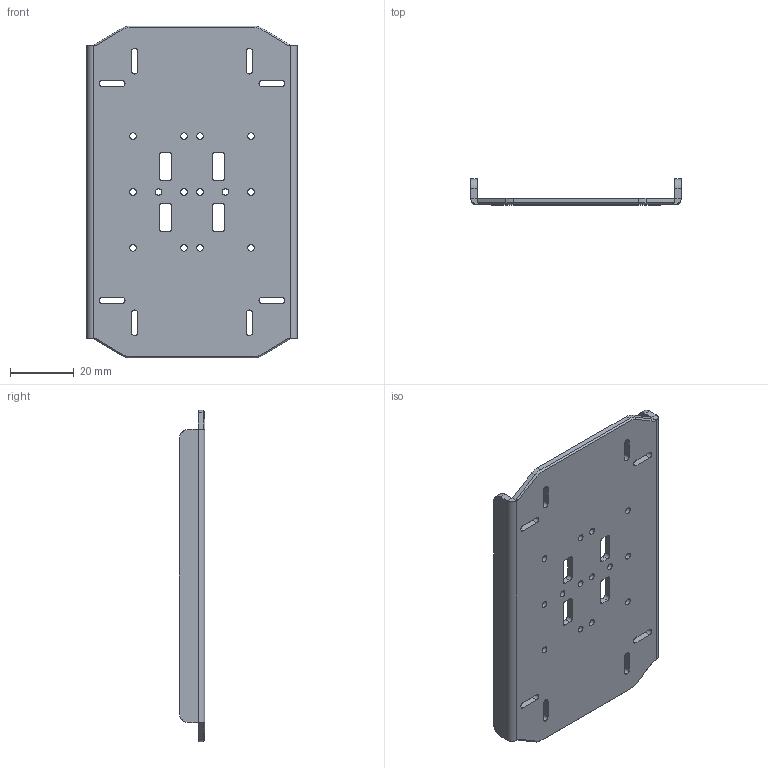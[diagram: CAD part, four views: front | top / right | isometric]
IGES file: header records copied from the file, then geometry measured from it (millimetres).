
Global section: file name: C:\Users\Knabe\Documents\Classes\8 Semester 8\DARwIn\Deliverables\DARwIn OP\DARwIn OP Part Files\OP 3D CAD Files\3D IGS\18_FR07_E160.igs; native system: NX V7.0; preprocessor: SIEMENS PLM Software NX 7.0; date: 20110525.180945; units: millimetre
Bounding box: 66 x 8 x 104 mm (x, y, z)
Surface area: 16102.3 mm2 (no closed solid volume)
Topology: 0 solids, 0 shells, 162 faces, 1172 edges, 1172 vertices
Faces by surface type: bspline 162
